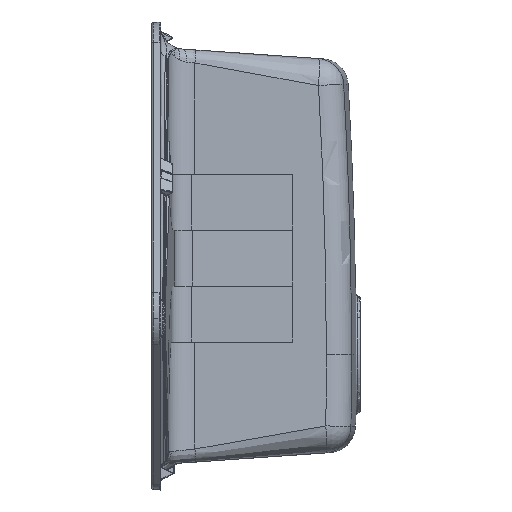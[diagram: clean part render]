
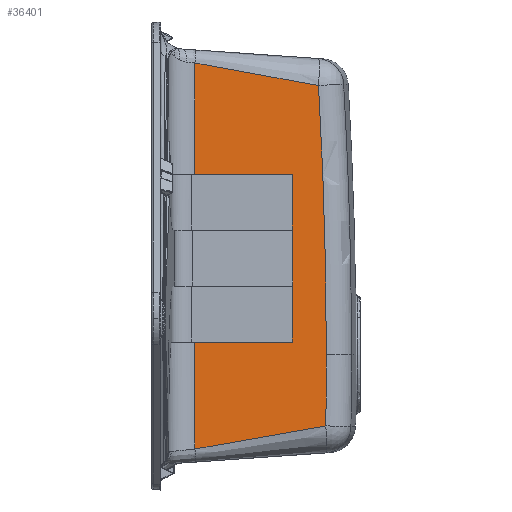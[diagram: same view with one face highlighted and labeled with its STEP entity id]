
A CAD part, left-side view. The second image highlights one B-rep face of the part: STEP entity #36401.
In plain terms, the highlighted planar face has unit normal (-0.998, -0.07, 0).
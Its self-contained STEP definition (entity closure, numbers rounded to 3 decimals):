
#24013=CARTESIAN_POINT('Vertex',(22.8,-46.36,-456.974)) ;
#29893=CARTESIAN_POINT('Vertex',(32.606,-186.593,-432.205)) ;
#29897=CARTESIAN_POINT('Control Point',(32.606,-186.593,-432.205)) ;
#29898=CARTESIAN_POINT('Control Point',(29.313,-139.503,-435.498)) ;
#29899=CARTESIAN_POINT('Control Point',(26.093,-93.45,-453.681)) ;
#29900=CARTESIAN_POINT('Control Point',(22.8,-46.36,-456.974)) ;
#30148=CARTESIAN_POINT('Line Origine',(22.8,-46.36,-500000.)) ;
#30152=CARTESIAN_POINT('Vertex',(22.8,-46.36,-342.31)) ;
#36108=CARTESIAN_POINT('Vertex',(22.8,-46.36,-43.186)) ;
#36140=CARTESIAN_POINT('Vertex',(32.061,-178.796,-67.41)) ;
#36144=CARTESIAN_POINT('Control Point',(32.061,-178.796,-67.41)) ;
#36145=CARTESIAN_POINT('Control Point',(28.95,-134.305,-64.299)) ;
#36146=CARTESIAN_POINT('Control Point',(25.911,-90.85,-46.297)) ;
#36147=CARTESIAN_POINT('Control Point',(22.8,-46.36,-43.186)) ;
#36315=CARTESIAN_POINT('Axis2P3D Location',(19.602,-0.628,-465.16)) ;
#36320=CARTESIAN_POINT('Axis2P3D Location',(-312.489,4748.494,-355.73)) ;
#36324=CARTESIAN_POINT('Vertex',(32.647,-187.183,-355.73)) ;
#36327=CARTESIAN_POINT('Axis2P3D Location',(-312.489,4748.494,-355.73)) ;
#36332=CARTESIAN_POINT('Line Origine',(22.8,-46.36,-102.748)) ;
#36336=CARTESIAN_POINT('Vertex',(22.8,-46.36,-162.31)) ;
#36339=CARTESIAN_POINT('Line Origine',(26.452,-98.589,-162.31)) ;
#36343=CARTESIAN_POINT('Vertex',(30.104,-150.819,-162.31)) ;
#36346=CARTESIAN_POINT('Line Origine',(30.104,-150.819,-192.31)) ;
#36350=CARTESIAN_POINT('Vertex',(30.104,-150.819,-222.31)) ;
#36353=CARTESIAN_POINT('Line Origine',(30.109,-150.881,-222.31)) ;
#36357=CARTESIAN_POINT('Vertex',(30.113,-150.943,-222.31)) ;
#36360=CARTESIAN_POINT('Line Origine',(30.113,-150.943,-252.31)) ;
#36364=CARTESIAN_POINT('Vertex',(30.113,-150.943,-282.31)) ;
#36367=CARTESIAN_POINT('Line Origine',(30.109,-150.881,-282.31)) ;
#36371=CARTESIAN_POINT('Vertex',(30.104,-150.819,-282.31)) ;
#36374=CARTESIAN_POINT('Line Origine',(30.104,-150.819,-312.31)) ;
#36378=CARTESIAN_POINT('Vertex',(30.104,-150.819,-342.31)) ;
#36381=CARTESIAN_POINT('Line Origine',(26.452,-98.589,-342.31)) ;
#30149=DIRECTION('Vector Direction',(0.,0.,-1.)) ;
#36316=DIRECTION('Axis2P3D Direction',(-0.998,-0.07,0.)) ;
#36317=DIRECTION('Axis2P3D XDirection',(0.07,-0.998,0.)) ;
#36321=DIRECTION('Axis2P3D Direction',(-0.998,-0.07,0.)) ;
#36328=DIRECTION('Axis2P3D Direction',(-0.998,-0.07,0.)) ;
#36333=DIRECTION('Vector Direction',(0.,0.,-1.)) ;
#36340=DIRECTION('Vector Direction',(-0.07,0.998,0.)) ;
#36347=DIRECTION('Vector Direction',(0.,0.,-1.)) ;
#36354=DIRECTION('Vector Direction',(-0.07,0.998,0.)) ;
#36361=DIRECTION('Vector Direction',(0.,0.,-1.)) ;
#36368=DIRECTION('Vector Direction',(0.07,-0.998,0.)) ;
#36375=DIRECTION('Vector Direction',(0.,0.,-1.)) ;
#36382=DIRECTION('Vector Direction',(0.07,-0.998,0.)) ;
#36318=AXIS2_PLACEMENT_3D('Plane Axis2P3D',#36315,#36316,#36317) ;
#36322=AXIS2_PLACEMENT_3D('Circle Axis2P3D',#36320,#36321,$) ;
#36329=AXIS2_PLACEMENT_3D('Circle Axis2P3D',#36327,#36328,$) ;
#36387=ORIENTED_EDGE('',*,*,#30154,.T.) ;
#36388=ORIENTED_EDGE('',*,*,#29901,.T.) ;
#36389=ORIENTED_EDGE('',*,*,#36326,.T.) ;
#36390=ORIENTED_EDGE('',*,*,#36331,.T.) ;
#36391=ORIENTED_EDGE('',*,*,#36148,.T.) ;
#36392=ORIENTED_EDGE('',*,*,#36338,.T.) ;
#36393=ORIENTED_EDGE('',*,*,#36345,.F.) ;
#36394=ORIENTED_EDGE('',*,*,#36352,.T.) ;
#36395=ORIENTED_EDGE('',*,*,#36359,.F.) ;
#36396=ORIENTED_EDGE('',*,*,#36366,.T.) ;
#36397=ORIENTED_EDGE('',*,*,#36373,.F.) ;
#36398=ORIENTED_EDGE('',*,*,#36380,.T.) ;
#36399=ORIENTED_EDGE('',*,*,#36385,.F.) ;
#30150=VECTOR('Line Direction',#30149,1.) ;
#36334=VECTOR('Line Direction',#36333,1.) ;
#36341=VECTOR('Line Direction',#36340,1.) ;
#36348=VECTOR('Line Direction',#36347,1.) ;
#36355=VECTOR('Line Direction',#36354,1.) ;
#36362=VECTOR('Line Direction',#36361,1.) ;
#36369=VECTOR('Line Direction',#36368,1.) ;
#36376=VECTOR('Line Direction',#36375,1.) ;
#36383=VECTOR('Line Direction',#36382,1.) ;
#36401=ADVANCED_FACE('EGO CORNER.SAT',(#36400),#36319,.T.) ;
#36323=CIRCLE('generated circle',#36322,4947.729) ;
#36330=CIRCLE('generated circle',#36329,4947.729) ;
#29901=EDGE_CURVE('',#24014,#29894,#29896,.F.) ;
#30154=EDGE_CURVE('',#30153,#24014,#30151,.T.) ;
#36148=EDGE_CURVE('',#36141,#36109,#36143,.T.) ;
#36326=EDGE_CURVE('',#29894,#36325,#36323,.T.) ;
#36331=EDGE_CURVE('',#36325,#36141,#36330,.T.) ;
#36338=EDGE_CURVE('',#36109,#36337,#36335,.T.) ;
#36345=EDGE_CURVE('',#36344,#36337,#36342,.T.) ;
#36352=EDGE_CURVE('',#36344,#36351,#36349,.T.) ;
#36359=EDGE_CURVE('',#36358,#36351,#36356,.T.) ;
#36366=EDGE_CURVE('',#36358,#36365,#36363,.T.) ;
#36373=EDGE_CURVE('',#36372,#36365,#36370,.T.) ;
#36380=EDGE_CURVE('',#36372,#36379,#36377,.T.) ;
#36385=EDGE_CURVE('',#30153,#36379,#36384,.T.) ;
#36386=EDGE_LOOP('',(#36387,#36388,#36389,#36390,#36391,#36392,#36393,#36394,#36395,#36396,#36397,#36398,#36399)) ;
#36400=FACE_OUTER_BOUND('',#36386,.T.) ;
#30151=LINE('Line',#30148,#30150) ;
#36335=LINE('Line',#36332,#36334) ;
#36342=LINE('Line',#36339,#36341) ;
#36349=LINE('Line',#36346,#36348) ;
#36356=LINE('Line',#36353,#36355) ;
#36363=LINE('Line',#36360,#36362) ;
#36370=LINE('Line',#36367,#36369) ;
#36377=LINE('Line',#36374,#36376) ;
#36384=LINE('Line',#36381,#36383) ;
#36319=PLANE('',#36318) ;
#24014=VERTEX_POINT('',#24013) ;
#29894=VERTEX_POINT('',#29893) ;
#30153=VERTEX_POINT('',#30152) ;
#36109=VERTEX_POINT('',#36108) ;
#36141=VERTEX_POINT('',#36140) ;
#36325=VERTEX_POINT('',#36324) ;
#36337=VERTEX_POINT('',#36336) ;
#36344=VERTEX_POINT('',#36343) ;
#36351=VERTEX_POINT('',#36350) ;
#36358=VERTEX_POINT('',#36357) ;
#36365=VERTEX_POINT('',#36364) ;
#36372=VERTEX_POINT('',#36371) ;
#36379=VERTEX_POINT('',#36378) ;
#29896=(BOUNDED_CURVE()B_SPLINE_CURVE(3,(#29897,#29898,#29899,#29900),.UNSPECIFIED.,.F.,.U.)B_SPLINE_CURVE_WITH_KNOTS((4,4),(0.,143.491),.UNSPECIFIED.)CURVE()GEOMETRIC_REPRESENTATION_ITEM()RATIONAL_B_SPLINE_CURVE((1.,1.,1.,1.))REPRESENTATION_ITEM('')) ;
#36143=(BOUNDED_CURVE()B_SPLINE_CURVE(3,(#36144,#36145,#36146,#36147),.UNSPECIFIED.,.F.,.U.)B_SPLINE_CURVE_WITH_KNOTS((4,4),(0.,135.741),.UNSPECIFIED.)CURVE()GEOMETRIC_REPRESENTATION_ITEM()RATIONAL_B_SPLINE_CURVE((1.,1.,1.,1.))REPRESENTATION_ITEM('')) ;
